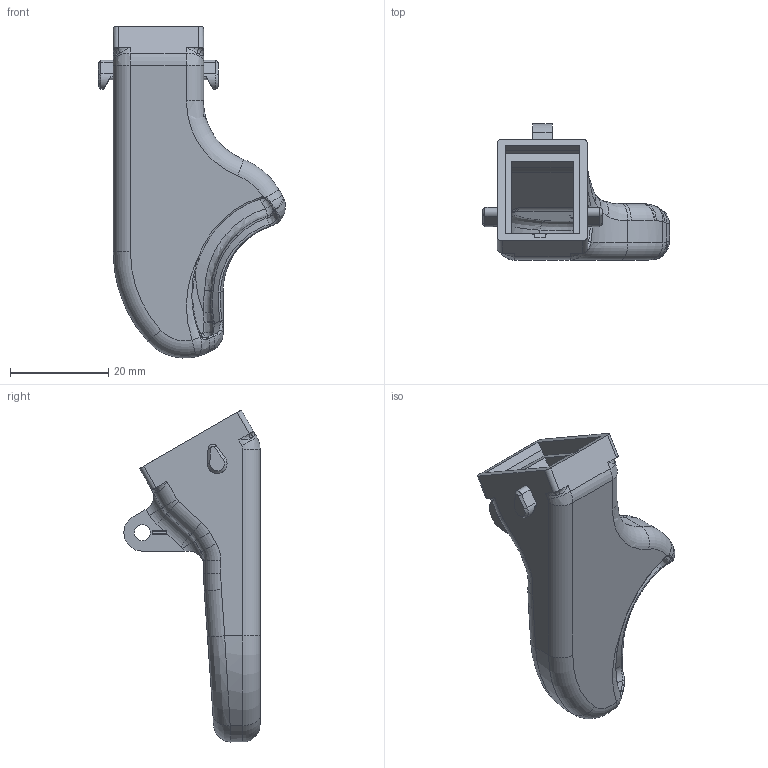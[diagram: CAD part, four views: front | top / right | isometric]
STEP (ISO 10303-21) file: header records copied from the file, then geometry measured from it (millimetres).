
FILE_DESCRIPTION(/* description */ (''),/* implementation_level */ '2;1');
FILE_NAME(/* name */ '/Users/jakeallen/Dropbox/3D Printer Fan Duct Designs/1.) Artillery Sidewinder X1/3D Models/5015 Double Ducts/VOLCANO/Volcano ALL Step Files/LH 5015 Duct.step',/* time_stamp */ '2021-03-05T21:09:29-05:00',/* author */ (''),/* organization */ (''),/* preprocessor_version */ 'ST-DEVELOPER v18.1',/* originating_system */ 'Autodesk Translation Framework v9.10.0.1330',/* authorisation */ '');
FILE_SCHEMA (('AUTOMOTIVE_DESIGN { 1 0 10303 214 3 1 1 }'));
Length unit declared in the file: millimetre
Products named in the file (1): LH 5015 Duct
Bounding box: 38.09 x 27.75 x 67.62 mm (x, y, z)
Volume: 8272.6 mm3; surface area: 8159.2 mm2
Topology: 1 solids, 1 shells, 327 faces, 807 edges, 473 vertices
Faces by surface type: bspline 124, cylinder 80, plane 66, torus 37, cone 10, sphere 10
Full cylindrical faces by diameter (mm): 3.3 x1
Entity records: 18237 total; most frequent: CARTESIAN_POINT 10947, ORIENTED_EDGE 1592, DIRECTION 1351, EDGE_CURVE 796, AXIS2_PLACEMENT_3D 560, VERTEX_POINT 473, EDGE_LOOP 333, FACE_OUTER_BOUND 327
